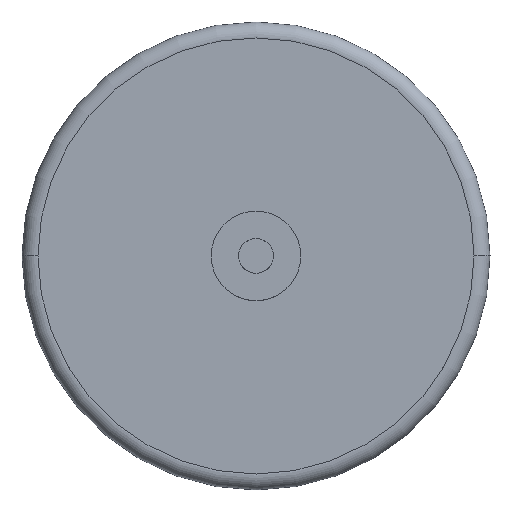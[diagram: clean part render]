
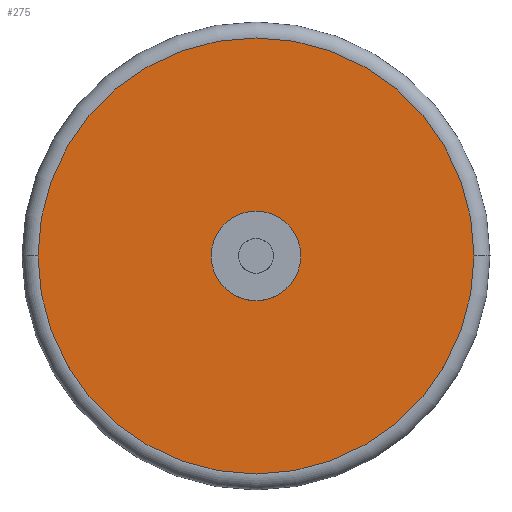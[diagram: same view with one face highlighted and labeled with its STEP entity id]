
A CAD part, top view. The second image highlights one B-rep face of the part: STEP entity #275.
In plain terms, the highlighted planar face has unit normal (0, 0, 1).
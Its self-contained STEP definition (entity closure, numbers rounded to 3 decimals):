
#4 = FACE_OUTER_BOUND ( 'NONE', #228, .T. ) ;
#80 = DIRECTION ( 'NONE',  ( 0., 0., 1. ) ) ;
#89 = CARTESIAN_POINT ( 'NONE',  ( -8., 0., 3.85 ) ) ;
#116 = DIRECTION ( 'NONE',  ( 1., 0., 0. ) ) ;
#122 = EDGE_CURVE ( 'NONE', #368, #611, #428, .T. ) ;
#123 = AXIS2_PLACEMENT_3D ( 'NONE', #518, #577, #575 ) ;
#144 = DIRECTION ( 'NONE',  ( 1., 0., 0. ) ) ;
#164 = EDGE_CURVE ( 'NONE', #306, #201, #307, .T. ) ;
#198 = CARTESIAN_POINT ( 'NONE',  ( 8., 0., 3.85 ) ) ;
#201 = VERTEX_POINT ( 'NONE', #732 ) ;
#228 = EDGE_LOOP ( 'NONE', ( #659, #459 ) ) ;
#256 = PLANE ( 'NONE',  #374 ) ;
#259 = EDGE_LOOP ( 'NONE', ( #404, #360 ) ) ;
#275 = ADVANCED_FACE ( 'NONE', ( #370, #4 ), #256, .T. ) ;
#306 = VERTEX_POINT ( 'NONE', #367 ) ;
#307 = CIRCLE ( 'NONE', #749, 39. ) ;
#315 = CARTESIAN_POINT ( 'NONE',  ( 0., 0., 3.85 ) ) ;
#322 = DIRECTION ( 'NONE',  ( 1., 0., 0. ) ) ;
#360 = ORIENTED_EDGE ( 'NONE', *, *, #122, .F. ) ;
#367 = CARTESIAN_POINT ( 'NONE',  ( 39., 0., 3.85 ) ) ;
#368 = VERTEX_POINT ( 'NONE', #198 ) ;
#370 = FACE_BOUND ( 'NONE', #259, .T. ) ;
#374 = AXIS2_PLACEMENT_3D ( 'NONE', #598, #608, #144 ) ;
#387 = DIRECTION ( 'NONE',  ( 1., 0., 0. ) ) ;
#404 = ORIENTED_EDGE ( 'NONE', *, *, #582, .F. ) ;
#428 = CIRCLE ( 'NONE', #734, 8. ) ;
#459 = ORIENTED_EDGE ( 'NONE', *, *, #164, .T. ) ;
#463 = CIRCLE ( 'NONE', #535, 8. ) ;
#468 = CARTESIAN_POINT ( 'NONE',  ( 0., 0., 3.85 ) ) ;
#518 = CARTESIAN_POINT ( 'NONE',  ( 0., 0., 3.85 ) ) ;
#535 = AXIS2_PLACEMENT_3D ( 'NONE', #315, #686, #387 ) ;
#575 = DIRECTION ( 'NONE',  ( 1., 0., 0. ) ) ;
#577 = DIRECTION ( 'NONE',  ( 0., 0., 1. ) ) ;
#582 = EDGE_CURVE ( 'NONE', #611, #368, #463, .T. ) ;
#598 = CARTESIAN_POINT ( 'NONE',  ( 0., 0., 3.85 ) ) ;
#608 = DIRECTION ( 'NONE',  ( 0., 0., 1. ) ) ;
#611 = VERTEX_POINT ( 'NONE', #89 ) ;
#625 = CIRCLE ( 'NONE', #123, 39. ) ;
#644 = EDGE_CURVE ( 'NONE', #201, #306, #625, .T. ) ;
#659 = ORIENTED_EDGE ( 'NONE', *, *, #644, .T. ) ;
#684 = CARTESIAN_POINT ( 'NONE',  ( 0., 0., 3.85 ) ) ;
#686 = DIRECTION ( 'NONE',  ( 0., 0., 1. ) ) ;
#732 = CARTESIAN_POINT ( 'NONE',  ( -39., 0., 3.85 ) ) ;
#734 = AXIS2_PLACEMENT_3D ( 'NONE', #468, #763, #116 ) ;
#749 = AXIS2_PLACEMENT_3D ( 'NONE', #684, #80, #322 ) ;
#763 = DIRECTION ( 'NONE',  ( 0., 0., 1. ) ) ;
